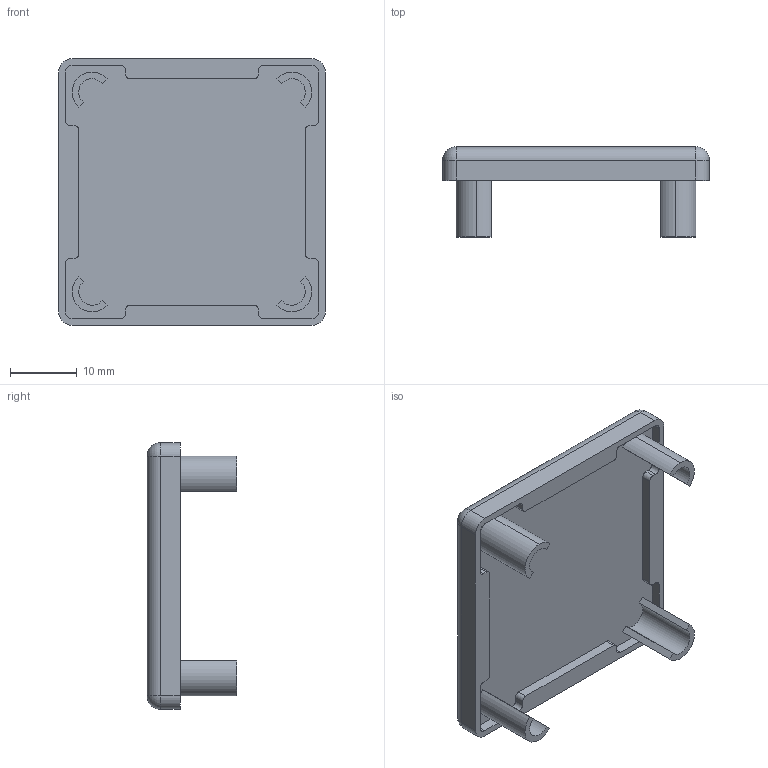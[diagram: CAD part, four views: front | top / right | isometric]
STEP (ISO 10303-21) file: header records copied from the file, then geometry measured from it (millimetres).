
FILE_DESCRIPTION (( 'STEP AP214' ), '1' );
FILE_NAME ('FBEC 40.step', '2017-04-05T08:00:54', ( '' ), ( '' ), 'SwSTEP 2.0', 'SolidWorks 2015', '' );
FILE_SCHEMA (( 'AUTOMOTIVE_DESIGN' ));
Length unit declared in the file: millimetre
Products named in the file (1): FBEC 40
Bounding box: 40 x 13.5 x 40 mm (x, y, z)
Volume: 6257.3 mm3; surface area: 4824.6 mm2
Topology: 1 solids, 1 shells, 83 faces, 220 edges, 140 vertices
Faces by surface type: cylinder 40, plane 39, sphere 4
Entity records: 2588 total; most frequent: DIRECTION 464, CARTESIAN_POINT 440, ORIENTED_EDGE 432, EDGE_CURVE 216, AXIS2_PLACEMENT_3D 164, VERTEX_POINT 140, LINE 136, VECTOR 136
